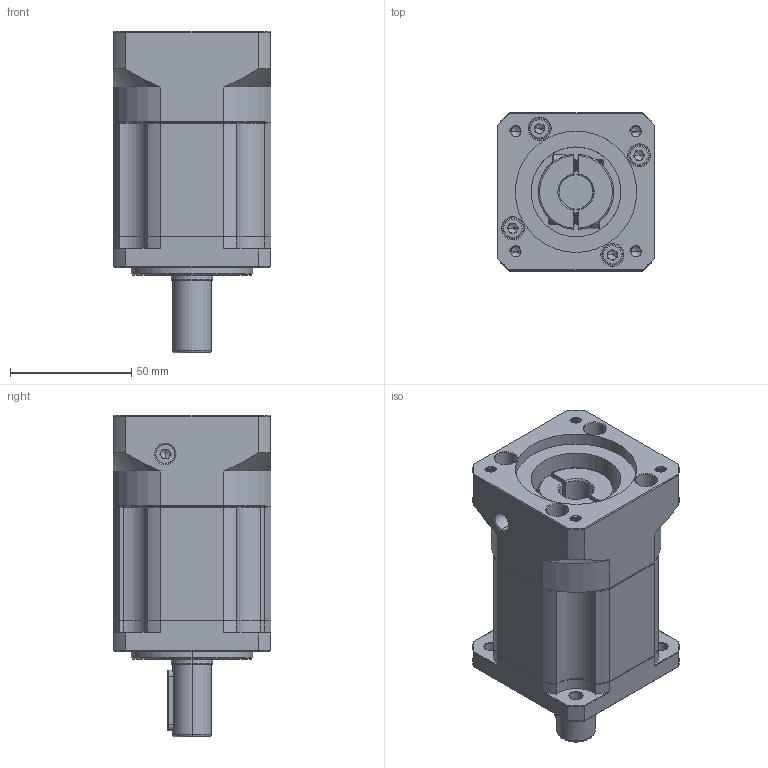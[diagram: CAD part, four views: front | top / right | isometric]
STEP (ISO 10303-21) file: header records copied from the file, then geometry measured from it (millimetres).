
FILE_DESCRIPTION (( 'STEP AP214' ), '1' );
FILE_NAME ('ZB60-D16-L2-14-50-70-M5.STEP', '2022-04-17T05:24:27', ( '' ), ( 'Microsoft' ), 'SwSTEP 2.0', 'SolidWorks 2016', '' );
FILE_SCHEMA (( 'AUTOMOTIVE_DESIGN' ));
Length unit declared in the file: millimetre
Products named in the file (1): ZB60-D16-L2-14-50-70-M5
Bounding box: 65 x 65 x 132.5 mm (x, y, z)
Volume: 330315.8 mm3; surface area: 58935.9 mm2
Topology: 6 solids, 6 shells, 1886 faces, 5005 edges, 3202 vertices
Faces by surface type: plane 879, cylinder 393, bspline 299, cone 281, torus 34
Entity records: 101739 total; most frequent: CARTESIAN_POINT 36588, ORIENTED_EDGE 9950, DIRECTION 8145, EDGE_CURVE 4975, VERTEX_POINT 3202, VECTOR 3035, LINE 3035, AXIS2_PLACEMENT_3D 2555
